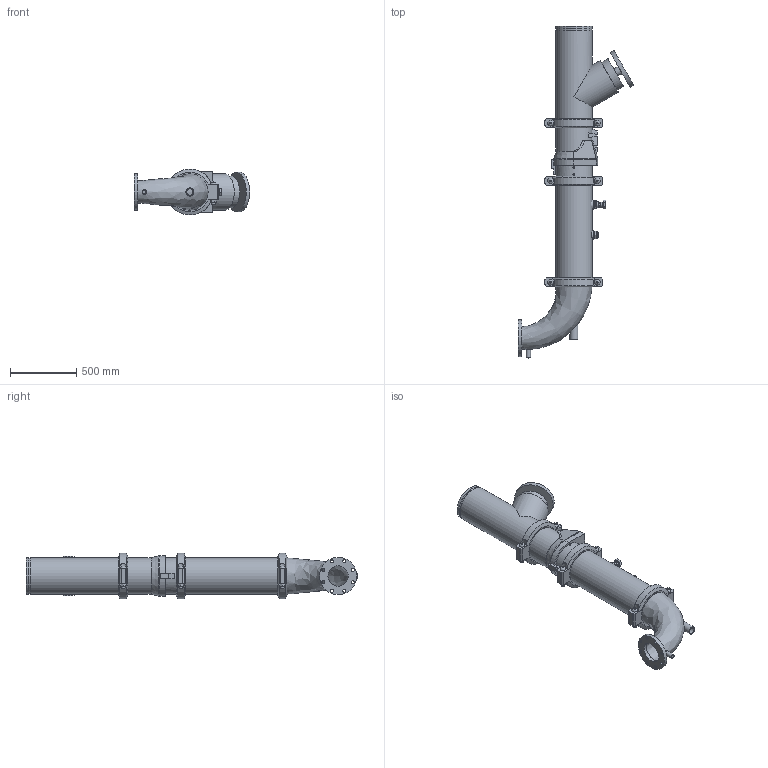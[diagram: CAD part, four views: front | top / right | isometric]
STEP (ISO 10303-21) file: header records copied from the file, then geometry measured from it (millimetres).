
FILE_DESCRIPTION(/* description */ (''),/* implementation_level */ '2;1');
FILE_NAME(/* name */ 'C:\Users\kkamble\Desktop\VIVEK FILES\Victaulic_IPS_Horizontal DVI_CL 150_Series 383 (OGSxFLG)\Victaulic_IPS_Horizontal DVI_CL 150_Series 383 2(OGSxFLG).stp',/* time_stamp */ '2022-03-21T10:29:59+06:00',/* author */ ('kkamble'),/* organization */ (''),/* preprocessor_version */ 'ST-DEVELOPER v16.1',/* originating_system */ 'Autodesk Inventor 2016',/* authorisation */ '');
FILE_SCHEMA (('CONFIG_CONTROL_DESIGN'));
Length unit declared in the file: inch
Products named in the file (8): Pipe-13; 789-07; 779-07; 077-15; 924-03; 923-04; R100F-09; Victaulic_IPS_Horizontal DVI_CL 150_Series 383 (OGSxFLG)
Assembly tree (9 placements, depth 2):
  Victaulic_IPS_Horizontal DVI_CL 150_Series 383 (OGSxFLG)
    Pipe-13
    789-07
    779-07
    077-15  x3
    924-03
    923-04
    R100F-09
Bounding box: 869.95 x 2497.26 x 344.9 mm (x, y, z)
Volume: 47133642.3 mm3; surface area: 5709662.3 mm2
Topology: 9 solids, 17 shells, 448 faces, 1025 edges, 681 vertices
Faces by surface type: plane 266, cylinder 147, cone 17, bspline 12, torus 6
Full cylindrical faces by diameter (mm): 13.716 x4, 21.336 x3, 22.352 x8, 25.4 x12, 26.67 x3, 27.432 x6, 34.29 x1, 38.608 x1, 42.164 x1, 45.974 x4, 48.26 x1, 48.514 x1, 55.626 x2, 60.96 x2, 76.2 x1, 154.051 x1, 237.49 x1, 254.508 x4, 264.16 x3, 268.275 x7, 273.05 x18, 279.4 x1, 299.974 x1
Entity records: 10425 total; most frequent: CARTESIAN_POINT 2793, DIRECTION 1531, ORIENTED_EDGE 1290, EDGE_CURVE 644, AXIS2_PLACEMENT_3D 595, EDGE_LOOP 485, VERTEX_POINT 468, LINE 341
